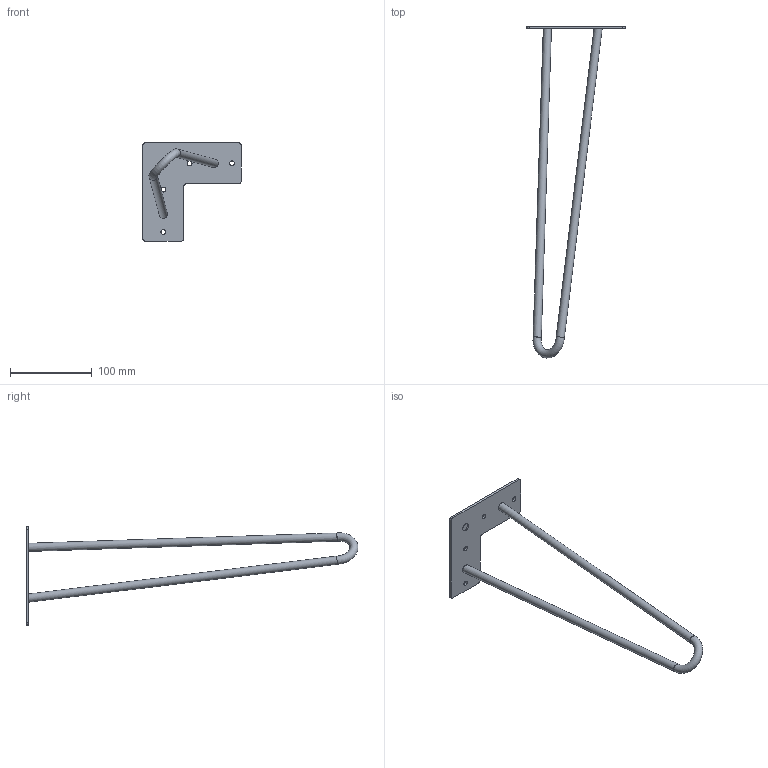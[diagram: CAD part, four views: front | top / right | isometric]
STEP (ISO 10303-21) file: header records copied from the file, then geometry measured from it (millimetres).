
FILE_DESCRIPTION(/* description */ (''),/* implementation_level */ '2;1');
FILE_NAME(/* name */ 'D:\$WorkingFolder\Designs\Meblowka\Nóżki meblowe\NM-ARTO\NM-ARTO-..-.R...-20M\NM-ARTO-10-2R406-20M.stp',/* time_stamp */ '2020-11-09T11:51:49+01:00',/* author */ ('ElizaL'),/* organization */ (''),/* preprocessor_version */ 'ST-DEVELOPER v18.1',/* originating_system */ 'Autodesk Inventor 2020',/* authorisation */ '');
FILE_SCHEMA (('AUTOMOTIVE_DESIGN { 1 0 10303 214 3 1 1 }'));
Length unit declared in the file: millimetre
Products named in the file (1): NM-ARTO-10-2R406-20M
Bounding box: 120 x 405.9 x 120 mm (x, y, z)
Volume: 92826.4 mm3; surface area: 46716.7 mm2
Topology: 2 solids, 2 shells, 33 faces, 88 edges, 62 vertices
Faces by surface type: cylinder 19, plane 13, torus 1
Full cylindrical faces by diameter (mm): 6 x4, 10 x7
Entity records: 1167 total; most frequent: CARTESIAN_POINT 232, DIRECTION 201, ORIENTED_EDGE 176, EDGE_CURVE 88, AXIS2_PLACEMENT_3D 83, VERTEX_POINT 62, EDGE_LOOP 44, CIRCLE 41
